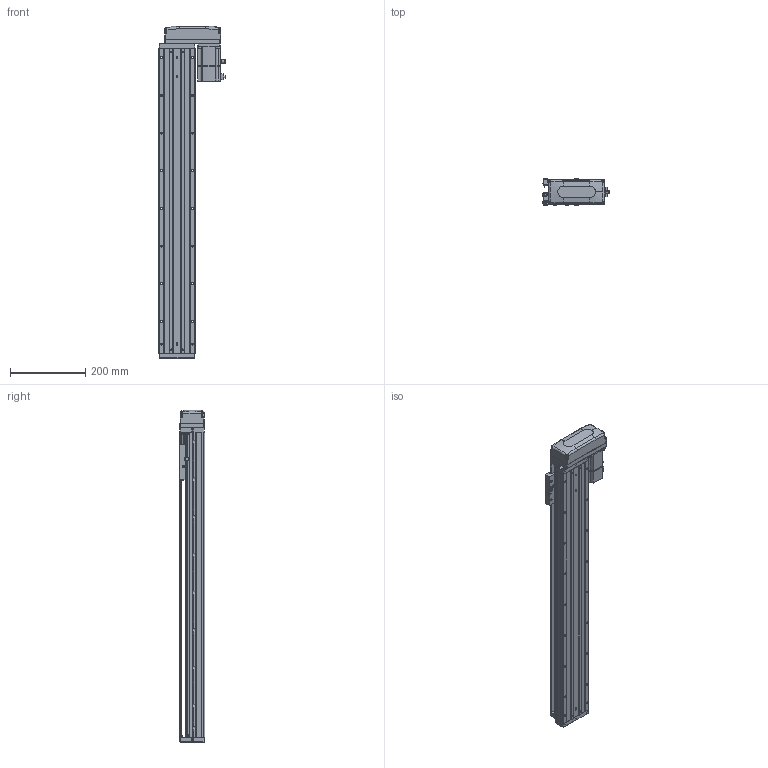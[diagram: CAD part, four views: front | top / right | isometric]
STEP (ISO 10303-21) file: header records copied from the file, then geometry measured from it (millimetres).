
FILE_DESCRIPTION (( 'STEP AP203' ), '1' );
FILE_NAME ('KTHA100-650-BL-M20-C4L.step', '2022-04-26T01:49:34', ( '微软用户' ), ( '微软中国' ), 'SwSTEP 2.0', 'SolidWorks 2020', '' );
FILE_SCHEMA (( 'CONFIG_CONTROL_DESIGN' ));
Length unit declared in the file: millimetre
Products named in the file (17): GBT77-2000 M3×3; CTHA86-033; KTHA100-004; GBT 70.1-M3℅6; KTHA100-650-BL-M20-C4L; KTHA100-005; GBT70.1 M5℅16; GB¨uT 70.2-M3¡Á5_M3¡Á6; CTHA60-016; EE_SX911P_R; GBT 70.3-M3℅6; CTHA60-017; _X2_4E0983F1_X0_200W_1; KTHA100-001_810; CTHA60-021; CTHA86-015-1_CTHA86-015-2; KTHA100-002
Assembly tree (57 placements, depth 2):
  KTHA100-650-BL-M20-C4L
    KTHA100-001_810
    KTHA100-002
    KTHA100-004
    KTHA100-005
    GB¨uT 70.2-M3¡Á5_M3¡Á6  x6
    EE_SX911P_R  x3
    CTHA60-017  x3
    CTHA60-021  x2
    GBT77-2000 M3×3  x6
    GBT 70.1-M3℅6  x10
    GBT70.1 M5℅16  x14
    CTHA60-016  x2
    GBT 70.3-M3℅6  x4
    _X2_4E0983F1_X0_200W_1
    CTHA86-015-1_CTHA86-015-2
    CTHA86-033
Bounding box: 177.7 x 68 x 881 mm (x, y, z)
Volume: 3870771.3 mm3; surface area: 631892.2 mm2
Topology: 60 solids, 60 shells, 2457 faces, 5889 edges, 3652 vertices
Faces by surface type: plane 1256, cylinder 683, cone 311, torus 116, bspline 75, sphere 16
Entity records: 42594 total; most frequent: CARTESIAN_POINT 8560, DIRECTION 6602, ORIENTED_EDGE 6390, EDGE_CURVE 3195, AXIS2_PLACEMENT_3D 2302, VERTEX_POINT 2012, VECTOR 1998, LINE 1998
